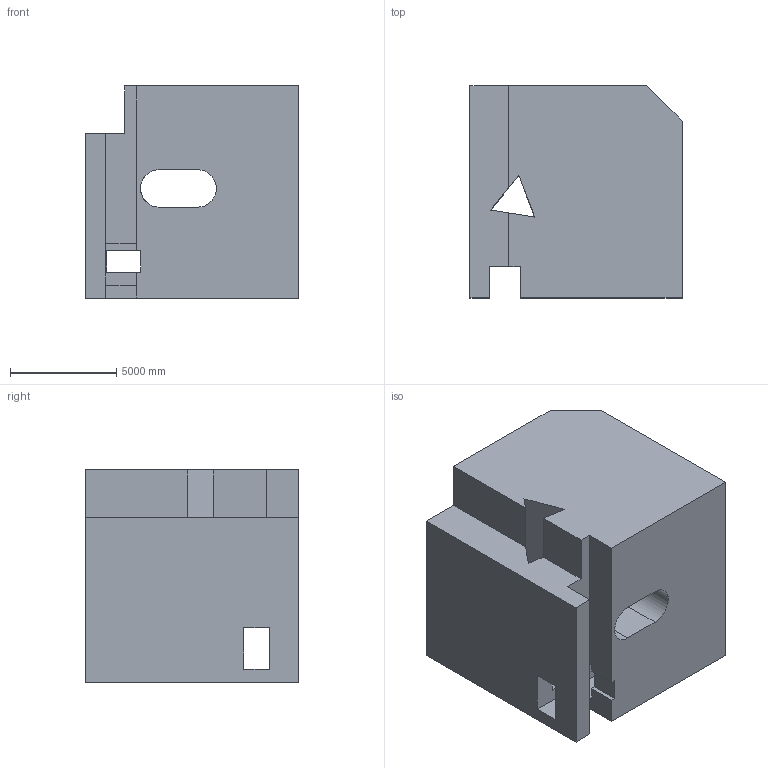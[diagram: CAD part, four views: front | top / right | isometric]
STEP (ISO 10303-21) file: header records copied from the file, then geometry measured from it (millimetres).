
FILE_DESCRIPTION (( 'STEP AP203' ), '1' );
FILE_NAME ('927.STEP', '2022-07-29T14:23:19', ( 'user' ), ( '' ), 'SwSTEP 2.0', 'SolidWorks 2021', '' );
FILE_SCHEMA (( 'CONFIG_CONTROL_DESIGN' ));
Length unit declared in the file: centimetre
Products named in the file (1): 927
Bounding box: 10000 x 10000 x 10000 mm (x, y, z)
Volume: 768505749118.4 mm3; surface area: 865827575 mm2
Topology: 1 solids, 1 shells, 51 faces, 162 edges, 108 vertices
Faces by surface type: plane 43, cylinder 8
Entity records: 1880 total; most frequent: CARTESIAN_POINT 334, ORIENTED_EDGE 324, DIRECTION 281, EDGE_CURVE 162, VECTOR 139, LINE 139, VERTEX_POINT 108, AXIS2_PLACEMENT_3D 71
